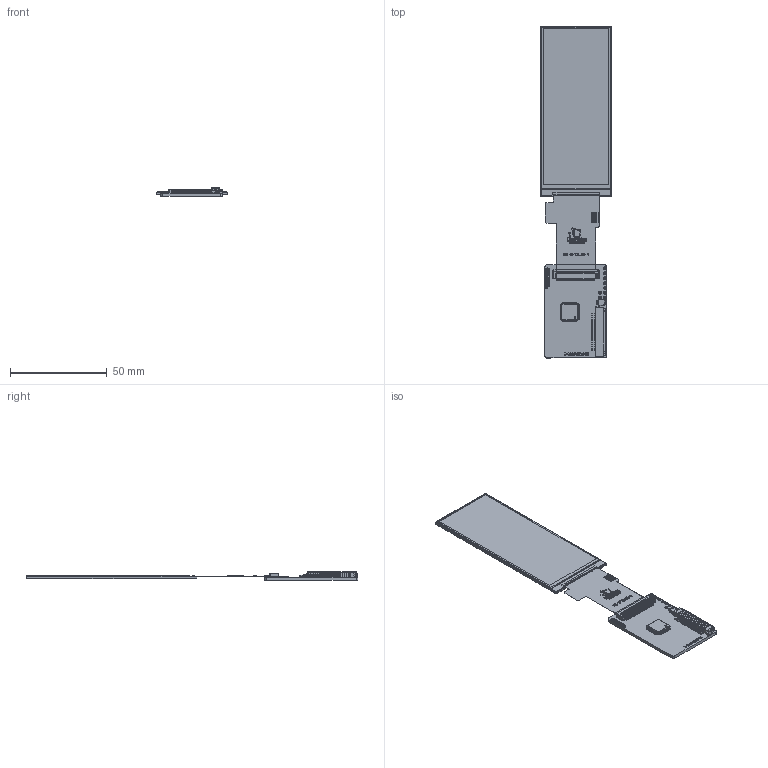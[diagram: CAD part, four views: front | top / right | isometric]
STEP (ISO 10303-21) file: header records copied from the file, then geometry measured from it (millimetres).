
FILE_DESCRIPTION (( 'STEP AP214' ), '1' );
FILE_NAME ('ER-TFT3.51-1-6011.STEP', '2024-08-26T01:20:32', ( '微软用户' ), ( '微软中国' ), 'SwSTEP 2.0', 'SolidWorks 2023', '' );
FILE_SCHEMA (( 'AUTOMOTIVE_DESIGN' ));
Length unit declared in the file: millimetre
Products named in the file (3): ER-6011-Controller Board; ER-TFT3.51-1; ER-TFT3.51-1-6011
Assembly tree (2 placements, depth 2):
  ER-TFT3.51-1-6011
    ER-6011-Controller Board
    ER-TFT3.51-1
Bounding box: 36.67 x 171.86 x 4.32 mm (x, y, z)
Volume: 8433.4 mm3; surface area: 16060.7 mm2
Topology: 183 solids, 183 shells, 5593 faces, 16233 edges, 10495 vertices
Faces by surface type: plane 4115, cylinder 785, bspline 693
Entity records: 261621 total; most frequent: CARTESIAN_POINT 66029, ORIENTED_EDGE 32436, DIRECTION 25872, EDGE_CURVE 16218, LINE 13102, VECTOR 13102, VERTEX_POINT 10495, AXIS2_PLACEMENT_3D 6385
